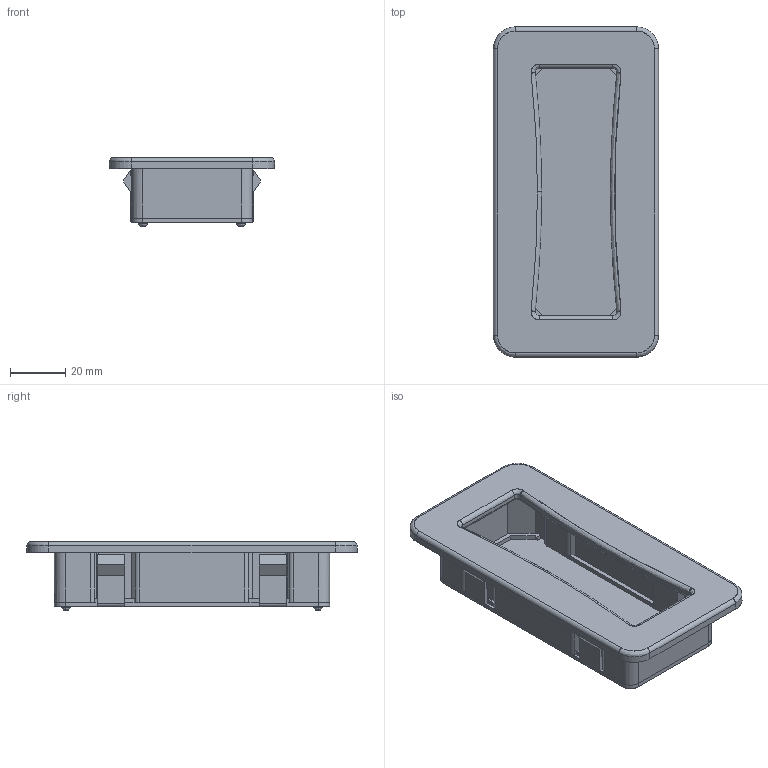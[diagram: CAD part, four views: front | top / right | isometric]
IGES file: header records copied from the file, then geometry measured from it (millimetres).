
Start section: SolidWorks IGES file using analytic representation for surfaces
Global section: file name: C:\Users\cbrechard\Desktop\PEC-60120-PO.IGS; native system: SolidWorks 2018; preprocessor: SolidWorks 2018; author: cbrechard; date: 260116.134717; units: millimetre
Bounding box: 60 x 120 x 25 mm (x, y, z)
Surface area: 30089 mm2 (no closed solid volume)
Topology: 0 solids, 0 shells, 191 faces, 1537 edges, 1538 vertices
Faces by surface type: bspline 138, revolution 53
